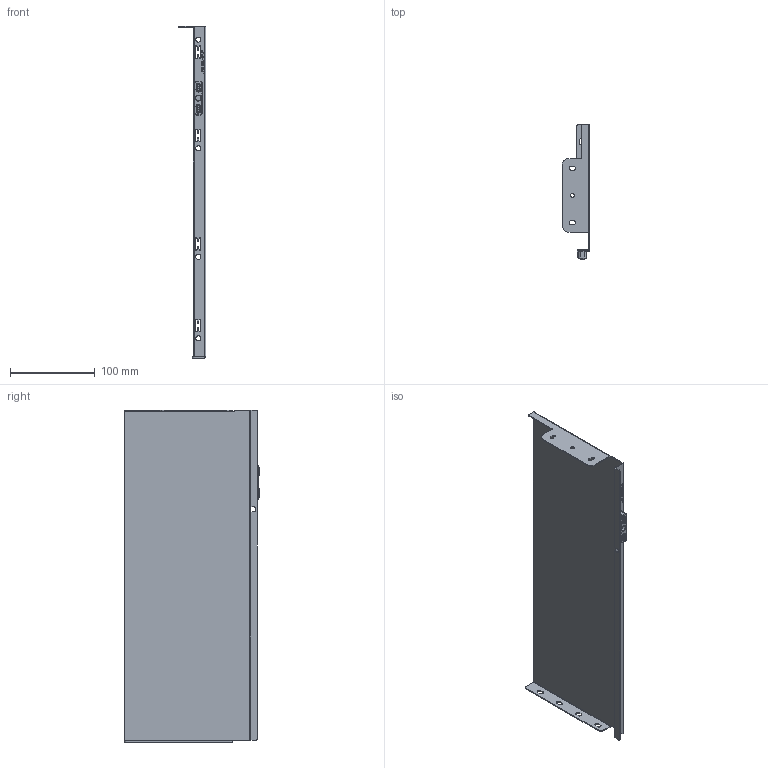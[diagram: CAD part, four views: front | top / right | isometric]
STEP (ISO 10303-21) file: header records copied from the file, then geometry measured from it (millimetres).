
FILE_DESCRIPTION (( 'STEP AP203' ), '1' );
FILE_NAME ('HL13400R.STEP', '2021-07-31T00:42:32', ( 'Users' ), ( 'Microsoft' ), 'SwSTEP 2.0', 'SolidWorks 2018', '' );
FILE_SCHEMA (( 'CONFIG_CONTROL_DESIGN' ));
Length unit declared in the file: millimetre
Products named in the file (1): HL13400R
Bounding box: 32.6 x 159.7 x 391.2 mm (x, y, z)
Volume: 87675.1 mm3; surface area: 144898.9 mm2
Topology: 1 solids, 1 shells, 449 faces, 1221 edges, 792 vertices
Faces by surface type: plane 171, cylinder 169, torus 55, bspline 52, cone 2
Entity records: 17227 total; most frequent: CARTESIAN_POINT 5728, ORIENTED_EDGE 2434, DIRECTION 2360, EDGE_CURVE 1217, AXIS2_PLACEMENT_3D 853, VERTEX_POINT 792, LINE 654, VECTOR 654
